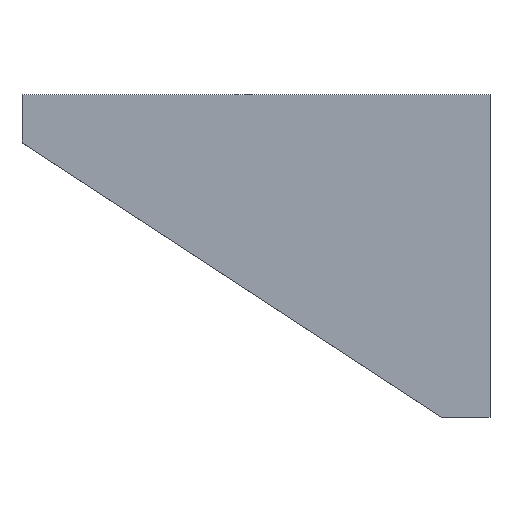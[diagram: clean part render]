
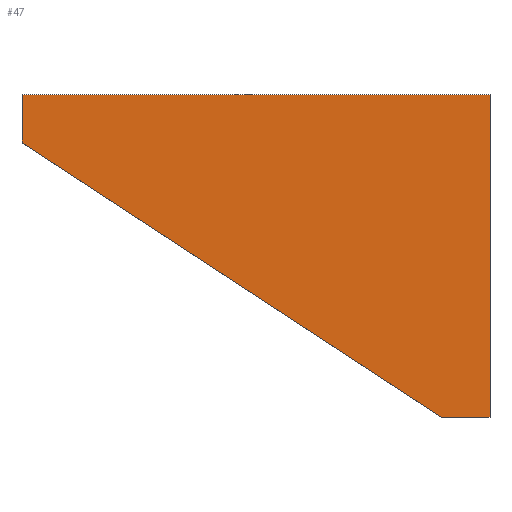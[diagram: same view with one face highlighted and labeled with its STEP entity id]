
A CAD part, top view. The second image highlights one B-rep face of the part: STEP entity #47.
In plain terms, the highlighted planar face has unit normal (0, 0, 1).
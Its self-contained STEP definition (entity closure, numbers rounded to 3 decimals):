
#47=ADVANCED_FACE('',(#61),#54,.T.);
#54=PLANE('',#161);
#61=FACE_OUTER_BOUND('',#68,.T.);
#68=EDGE_LOOP('',(#90,#91,#92,#93,#94));
#90=ORIENTED_EDGE('',*,*,#112,.F.);
#91=ORIENTED_EDGE('',*,*,#116,.F.);
#92=ORIENTED_EDGE('',*,*,#119,.F.);
#93=ORIENTED_EDGE('',*,*,#122,.F.);
#94=ORIENTED_EDGE('',*,*,#124,.F.);
#102=VERTEX_POINT('',#199);
#103=VERTEX_POINT('',#201);
#105=VERTEX_POINT('',#207);
#107=VERTEX_POINT('',#213);
#109=VERTEX_POINT('',#219);
#112=EDGE_CURVE('',#102,#103,#127,.T.);
#116=EDGE_CURVE('',#105,#102,#131,.T.);
#119=EDGE_CURVE('',#107,#105,#134,.T.);
#122=EDGE_CURVE('',#109,#107,#137,.T.);
#124=EDGE_CURVE('',#103,#109,#139,.T.);
#127=LINE('',#200,#142);
#131=LINE('',#208,#146);
#134=LINE('',#214,#149);
#137=LINE('',#220,#152);
#139=LINE('',#223,#154);
#142=VECTOR('',#167,1.);
#146=VECTOR('',#173,1.);
#149=VECTOR('',#178,1.);
#152=VECTOR('',#183,1.);
#154=VECTOR('',#187,1.);
#161=AXIS2_PLACEMENT_3D('',#225,#190,#191);
#167=DIRECTION('',(0.,1.,0.));
#173=DIRECTION('',(-0.837,0.547,0.));
#178=DIRECTION('',(-1.,0.,0.));
#183=DIRECTION('',(0.,-1.,0.));
#187=DIRECTION('',(1.,0.,0.));
#190=DIRECTION('',(0.,0.,1.));
#191=DIRECTION('',(1.,0.,0.));
#199=CARTESIAN_POINT('',(-245.,5355.,2110.));
#200=CARTESIAN_POINT('',(-245.,5370.,2110.));
#201=CARTESIAN_POINT('',(-245.,5370.,2110.));
#207=CARTESIAN_POINT('',(-115.,5270.,2110.));
#208=CARTESIAN_POINT('',(-245.,5355.,2110.));
#213=CARTESIAN_POINT('',(-100.,5270.,2110.));
#214=CARTESIAN_POINT('',(-115.,5270.,2110.));
#219=CARTESIAN_POINT('',(-100.,5370.,2110.));
#220=CARTESIAN_POINT('',(-100.,5270.,2110.));
#223=CARTESIAN_POINT('',(-100.,5370.,2110.));
#225=CARTESIAN_POINT('',(0.,0.,2110.));
